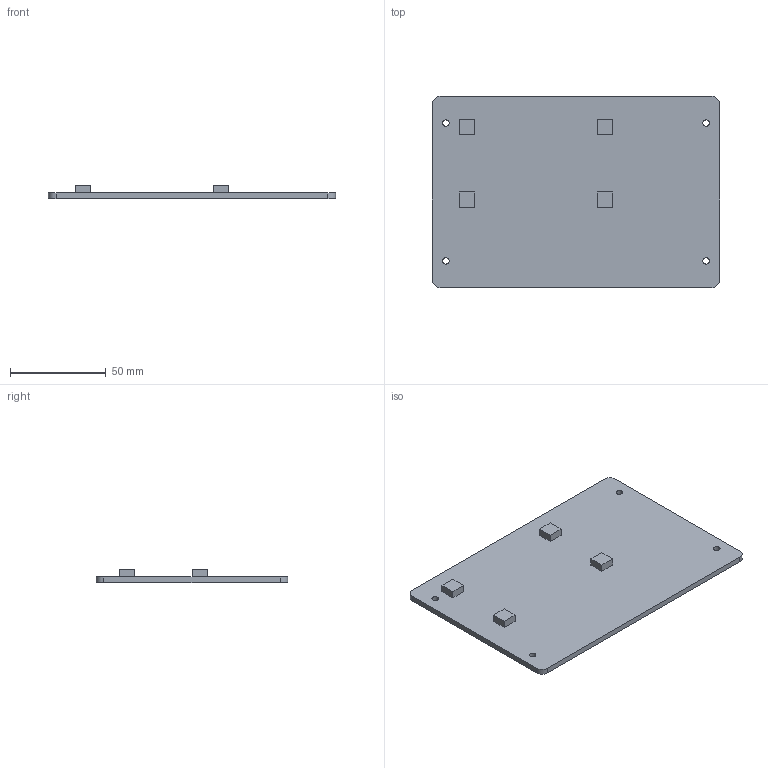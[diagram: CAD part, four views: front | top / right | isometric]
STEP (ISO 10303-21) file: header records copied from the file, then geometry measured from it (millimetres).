
FILE_DESCRIPTION(('Open CASCADE Model'),'2;1');
FILE_NAME('Open CASCADE Shape Model','2026-10-07T20:49:38',('Author'),( 'Open CASCADE'),'Open CASCADE STEP processor 7.9','Open CASCADE 7.9' ,'Unknown');
FILE_SCHEMA(('AUTOMOTIVE_DESIGN { 1 0 10303 214 1 1 1 1 }'));
Length unit declared in the file: millimetre
Products named in the file (1): Open CASCADE STEP translator 7.9 2
Bounding box: 150 x 100 x 7 mm (x, y, z)
Volume: 45873.8 mm3; surface area: 32019.5 mm2
Topology: 1 solids, 1 shells, 34 faces, 84 edges, 56 vertices
Faces by surface type: plane 26, cylinder 8
Full cylindrical faces by diameter (mm): 3.4 x4
Entity records: 2158 total; most frequent: CARTESIAN_POINT 415, DIRECTION 326, LINE 220, VECTOR 220, ORIENTED_EDGE 168, PCURVE 168, DEFINITIONAL_REPRESENTATION 168, EDGE_CURVE 84
